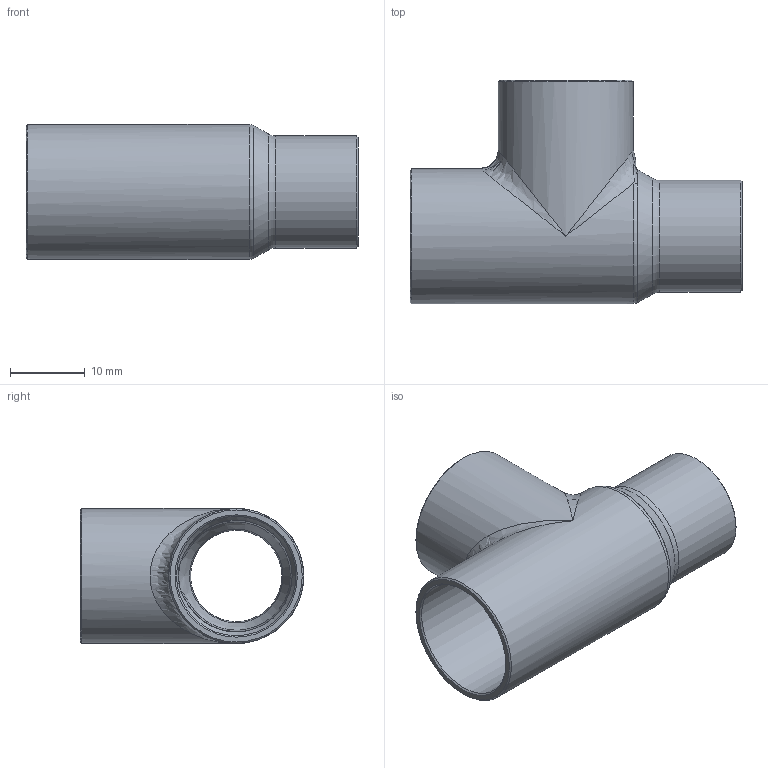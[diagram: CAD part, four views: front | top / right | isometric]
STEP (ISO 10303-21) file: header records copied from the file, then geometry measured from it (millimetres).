
FILE_DESCRIPTION((''),'2;1');
FILE_NAME('G:\SANHA-Ternat\Technik\Management\Bouwmaten + markeringen\z-maattekeningen 3D\29000s\29130585812_3d.stp','2017-07-31T16:05:17',('vdvijverd'),(''),'Autodesk Inventor 2009','Autodesk Inventor 2009','');
FILE_SCHEMA(('AUTOMOTIVE_DESIGN { 1 0 10303 214 1 1 1 1 }'));
Length unit declared in the file: millimetre
Products named in the file (1): 29130585812_3d
Bounding box: 44.5 x 29.95 x 18.1 mm (x, y, z)
Volume: 3442.5 mm3; surface area: 5687 mm2
Topology: 1 solids, 1 shells, 39 faces, 100 edges, 54 vertices
Faces by surface type: cone 11, bspline 11, cylinder 9, plane 4, torus 4
Full cylindrical faces by diameter (mm): 12.82 x1, 15.02 x1, 15.995 x2, 18.1 x2
Entity records: 2119 total; most frequent: CARTESIAN_POINT 1346, DIRECTION 154, ORIENTED_EDGE 132, AXIS2_PLACEMENT_3D 77, EDGE_CURVE 66, EDGE_LOOP 62, VERTEX_POINT 48, FACE_OUTER_BOUND 39
